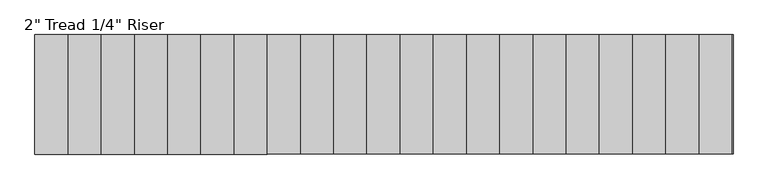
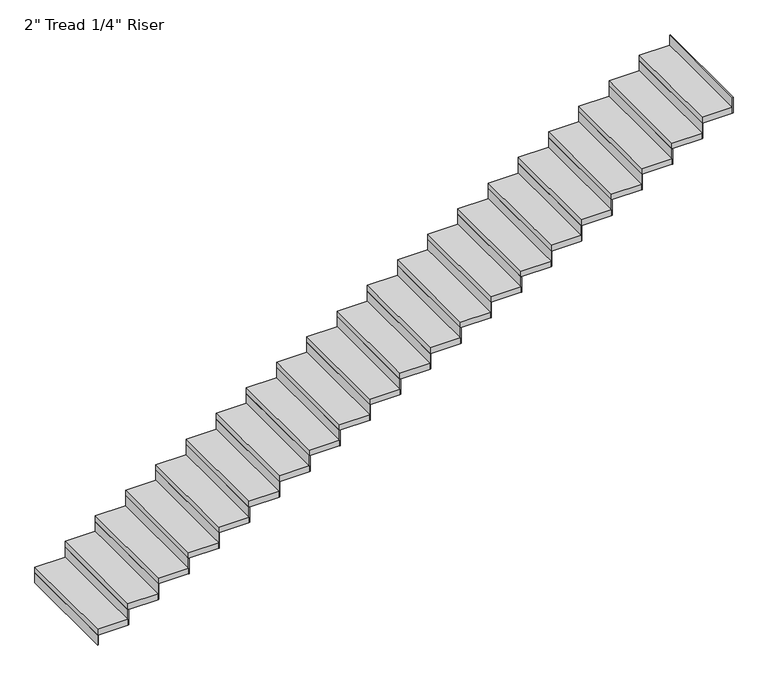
"""IFC4 building model written with IfcOpenShell, lengths in millimetres: stair flight geometry."""

from ifc_helpers import new_model, si_unit, frame, origin, origin_with_axes, place, context, project, spatial, polyline, outline, extrude, source, transform, mapped, element, save


def stair_flight_5fd97676(model_context):
    return source(origin(), model_context, "Body", "SweptSolid", [
        extrude(outline(polyline([(10185.2072927, -68793.8034511), (10178.8572927, -68793.8034511), (10178.8572927, -67879.4034511), (10185.2072927, -67879.4034511), (10185.2072927, -68793.8034511)])), origin_with_axes(), (0.0, 0.0, 1.0), 87.7454545),
        extrude(outline(polyline([(10432.8572927, -67879.4034511), (10432.8572927, -68793.8034511), (10178.8572927, -68793.8034511), (10178.8572927, -67879.4034511), (10432.8572927, -67879.4034511)])), frame((0.0, 0.0, 87.7454545), z_axis=(0.0, 0.0, 1.0), x_axis=(1.0, 0.0, 0.0)), (0.0, 0.0, 1.0), 50.8),
        extrude(outline(polyline([(10439.2072927, -68793.8034511), (10432.8572927, -68793.8034511), (10432.8572927, -67879.4034511), (10439.2072927, -67879.4034511), (10439.2072927, -68793.8034511)])), frame((0.0, 0.0, 87.7454545), z_axis=(0.0, 0.0, 1.0), x_axis=(1.0, 0.0, 0.0)), (0.0, 0.0, 1.0), 138.5454545),
        extrude(outline(polyline([(10686.8572927, -67879.4034511), (10686.8572927, -68793.8034511), (10432.8572927, -68793.8034511), (10432.8572927, -67879.4034511), (10686.8572927, -67879.4034511)])), frame((0.0, 0.0, 226.2909091), z_axis=(0.0, 0.0, 1.0), x_axis=(1.0, 0.0, 0.0)), (0.0, 0.0, 1.0), 50.8),
        extrude(outline(polyline([(10693.2072927, -68793.8034511), (10686.8572927, -68793.8034511), (10686.8572927, -67879.4034511), (10693.2072927, -67879.4034511), (10693.2072927, -68793.8034511)])), frame((0.0, 0.0, 226.2909091), z_axis=(0.0, 0.0, 1.0), x_axis=(1.0, 0.0, 0.0)), (0.0, 0.0, 1.0), 138.5454545),
        extrude(outline(polyline([(10940.8572927, -67879.4034511), (10940.8572927, -68793.8034511), (10686.8572927, -68793.8034511), (10686.8572927, -67879.4034511), (10940.8572927, -67879.4034511)])), frame((0.0, 0.0, 364.8363636), z_axis=(0.0, 0.0, 1.0), x_axis=(1.0, 0.0, 0.0)), (0.0, 0.0, 1.0), 50.8),
        extrude(outline(polyline([(10947.2072927, -68793.8034511), (10940.8572927, -68793.8034511), (10940.8572927, -67879.4034511), (10947.2072927, -67879.4034511), (10947.2072927, -68793.8034511)])), frame((0.0, 0.0, 364.8363636), z_axis=(0.0, 0.0, 1.0), x_axis=(1.0, 0.0, 0.0)), (0.0, 0.0, 1.0), 138.5454545),
        extrude(outline(polyline([(11194.8572927, -67879.4034511), (11194.8572927, -68793.8034511), (10940.8572927, -68793.8034511), (10940.8572927, -67879.4034511), (11194.8572927, -67879.4034511)])), frame((0.0, 0.0, 503.3818182), z_axis=(0.0, 0.0, 1.0), x_axis=(1.0, 0.0, 0.0)), (0.0, 0.0, 1.0), 50.8),
        extrude(outline(polyline([(11201.2072927, -68793.8034511), (11194.8572927, -68793.8034511), (11194.8572927, -67879.4034511), (11201.2072927, -67879.4034511), (11201.2072927, -68793.8034511)])), frame((0.0, 0.0, 503.3818182), z_axis=(0.0, 0.0, 1.0), x_axis=(1.0, 0.0, 0.0)), (0.0, 0.0, 1.0), 138.5454545),
        extrude(outline(polyline([(11448.8572927, -67879.4034511), (11448.8572927, -68793.8034511), (11194.8572927, -68793.8034511), (11194.8572927, -67879.4034511), (11448.8572927, -67879.4034511)])), frame((0.0, 0.0, 641.9272727), z_axis=(0.0, 0.0, 1.0), x_axis=(1.0, 0.0, 0.0)), (0.0, 0.0, 1.0), 50.8),
        extrude(outline(polyline([(11455.2072927, -68793.8034511), (11448.8572927, -68793.8034511), (11448.8572927, -67879.4034511), (11455.2072927, -67879.4034511), (11455.2072927, -68793.8034511)])), frame((0.0, 0.0, 641.9272727), z_axis=(0.0, 0.0, 1.0), x_axis=(1.0, 0.0, 0.0)), (0.0, 0.0, 1.0), 138.5454545),
        extrude(outline(polyline([(11702.8572927, -67879.4034511), (11702.8572927, -68793.8034511), (11448.8572927, -68793.8034511), (11448.8572927, -67879.4034511), (11702.8572927, -67879.4034511)])), frame((0.0, 0.0, 780.4727273), z_axis=(0.0, 0.0, 1.0), x_axis=(1.0, 0.0, 0.0)), (0.0, 0.0, 1.0), 50.8),
        extrude(outline(polyline([(11709.2072927, -68793.8034511), (11702.8572927, -68793.8034511), (11702.8572927, -67879.4034511), (11709.2072927, -67879.4034511), (11709.2072927, -68793.8034511)])), frame((0.0, 0.0, 780.4727273), z_axis=(0.0, 0.0, 1.0), x_axis=(1.0, 0.0, 0.0)), (0.0, 0.0, 1.0), 138.5454545),
        extrude(outline(polyline([(11956.8572927, -67879.4034511), (11956.8572927, -68793.8034511), (11702.8572927, -68793.8034511), (11702.8572927, -67879.4034511), (11956.8572927, -67879.4034511)])), frame((0.0, 0.0, 919.0181818), z_axis=(0.0, 0.0, 1.0), x_axis=(1.0, 0.0, 0.0)), (0.0, 0.0, 1.0), 50.8),
        extrude(outline(polyline([(11963.2072927, -68793.8034511), (11956.8572927, -68793.8034511), (11956.8572927, -67879.4034511), (11963.2072927, -67879.4034511), (11963.2072927, -68793.8034511)])), frame((0.0, 0.0, 919.0181818), z_axis=(0.0, 0.0, 1.0), x_axis=(1.0, 0.0, 0.0)), (0.0, 0.0, 1.0), 138.5454545),
        extrude(outline(polyline([(12210.8572927, -67879.4034511), (12210.8572927, -68793.8034511), (11956.8572927, -68793.8034511), (11956.8572927, -67879.4034511), (12210.8572927, -67879.4034511)])), frame((0.0, 0.0, 1057.5636364), z_axis=(0.0, 0.0, 1.0), x_axis=(1.0, 0.0, 0.0)), (0.0, 0.0, 1.0), 50.8),
        extrude(outline(polyline([(12217.2072927, -68793.8034511), (12210.8572927, -68793.8034511), (12210.8572927, -67879.4034511), (12217.2072927, -67879.4034511), (12217.2072927, -68793.8034511)])), frame((0.0, 0.0, 1057.5636364), z_axis=(0.0, 0.0, 1.0), x_axis=(1.0, 0.0, 0.0)), (0.0, 0.0, 1.0), 138.5454545),
        extrude(outline(polyline([(12464.8572927, -67879.4034511), (12464.8572927, -68793.8034511), (12210.8572927, -68793.8034511), (12210.8572927, -67879.4034511), (12464.8572927, -67879.4034511)])), frame((0.0, 0.0, 1196.1090909), z_axis=(0.0, 0.0, 1.0), x_axis=(1.0, 0.0, 0.0)), (0.0, 0.0, 1.0), 50.8),
        extrude(outline(polyline([(12471.2072927, -68793.8034511), (12464.8572927, -68793.8034511), (12464.8572927, -67879.4034511), (12471.2072927, -67879.4034511), (12471.2072927, -68793.8034511)])), frame((0.0, 0.0, 1196.1090909), z_axis=(0.0, 0.0, 1.0), x_axis=(1.0, 0.0, 0.0)), (0.0, 0.0, 1.0), 138.5454545),
        extrude(outline(polyline([(12718.8572927, -67879.4034511), (12718.8572927, -68793.8034511), (12464.8572927, -68793.8034511), (12464.8572927, -67879.4034511), (12718.8572927, -67879.4034511)])), frame((0.0, 0.0, 1334.6545455), z_axis=(0.0, 0.0, 1.0), x_axis=(1.0, 0.0, 0.0)), (0.0, 0.0, 1.0), 50.8),
        extrude(outline(polyline([(12725.2072927, -68793.8034511), (12718.8572927, -68793.8034511), (12718.8572927, -67879.4034511), (12725.2072927, -67879.4034511), (12725.2072927, -68793.8034511)])), frame((0.0, 0.0, 1334.6545455), z_axis=(0.0, 0.0, 1.0), x_axis=(1.0, 0.0, 0.0)), (0.0, 0.0, 1.0), 138.5454545),
        extrude(outline(polyline([(12972.8572927, -67879.4034511), (12972.8572927, -68793.8034511), (12718.8572927, -68793.8034511), (12718.8572927, -67879.4034511), (12972.8572927, -67879.4034511)])), frame((0.0, 0.0, 1473.2), z_axis=(0.0, 0.0, 1.0), x_axis=(1.0, 0.0, 0.0)), (0.0, 0.0, 1.0), 50.8),
        extrude(outline(polyline([(12979.2072927, -68793.8034511), (12972.8572927, -68793.8034511), (12972.8572927, -67879.4034511), (12979.2072927, -67879.4034511), (12979.2072927, -68793.8034511)])), frame((0.0, 0.0, 1473.2), z_axis=(0.0, 0.0, 1.0), x_axis=(1.0, 0.0, 0.0)), (0.0, 0.0, 1.0), 138.5454545),
        extrude(outline(polyline([(13226.8572927, -67879.4034511), (13226.8572927, -68793.8034511), (12972.8572927, -68793.8034511), (12972.8572927, -67879.4034511), (13226.8572927, -67879.4034511)])), frame((0.0, 0.0, 1611.7454545), z_axis=(0.0, 0.0, 1.0), x_axis=(1.0, 0.0, 0.0)), (0.0, 0.0, 1.0), 50.8),
        extrude(outline(polyline([(13233.2072927, -68793.8034511), (13226.8572927, -68793.8034511), (13226.8572927, -67879.4034511), (13233.2072927, -67879.4034511), (13233.2072927, -68793.8034511)])), frame((0.0, 0.0, 1611.7454545), z_axis=(0.0, 0.0, 1.0), x_axis=(1.0, 0.0, 0.0)), (0.0, 0.0, 1.0), 138.5454545),
        extrude(outline(polyline([(13480.8572927, -67879.4034511), (13480.8572927, -68793.8034511), (13226.8572927, -68793.8034511), (13226.8572927, -67879.4034511), (13480.8572927, -67879.4034511)])), frame((0.0, 0.0, 1750.2909091), z_axis=(0.0, 0.0, 1.0), x_axis=(1.0, 0.0, 0.0)), (0.0, 0.0, 1.0), 50.8),
        extrude(outline(polyline([(13487.2072927, -68793.8034511), (13480.8572927, -68793.8034511), (13480.8572927, -67879.4034511), (13487.2072927, -67879.4034511), (13487.2072927, -68793.8034511)])), frame((0.0, 0.0, 1750.2909091), z_axis=(0.0, 0.0, 1.0), x_axis=(1.0, 0.0, 0.0)), (0.0, 0.0, 1.0), 138.5454545),
        extrude(outline(polyline([(13734.8572927, -67879.4034511), (13734.8572927, -68793.8034511), (13480.8572927, -68793.8034511), (13480.8572927, -67879.4034511), (13734.8572927, -67879.4034511)])), frame((0.0, 0.0, 1888.8363636), z_axis=(0.0, 0.0, 1.0), x_axis=(1.0, 0.0, 0.0)), (0.0, 0.0, 1.0), 50.8),
        extrude(outline(polyline([(13741.2072927, -68793.8034511), (13734.8572927, -68793.8034511), (13734.8572927, -67879.4034511), (13741.2072927, -67879.4034511), (13741.2072927, -68793.8034511)])), frame((0.0, 0.0, 1888.8363636), z_axis=(0.0, 0.0, 1.0), x_axis=(1.0, 0.0, 0.0)), (0.0, 0.0, 1.0), 138.5454545),
        extrude(outline(polyline([(13988.8572927, -67879.4034511), (13988.8572927, -68793.8034511), (13734.8572927, -68793.8034511), (13734.8572927, -67879.4034511), (13988.8572927, -67879.4034511)])), frame((0.0, 0.0, 2027.3818182), z_axis=(0.0, 0.0, 1.0), x_axis=(1.0, 0.0, 0.0)), (0.0, 0.0, 1.0), 50.8),
        extrude(outline(polyline([(13995.2072927, -68793.8034511), (13988.8572927, -68793.8034511), (13988.8572927, -67879.4034511), (13995.2072927, -67879.4034511), (13995.2072927, -68793.8034511)])), frame((0.0, 0.0, 2027.3818182), z_axis=(0.0, 0.0, 1.0), x_axis=(1.0, 0.0, 0.0)), (0.0, 0.0, 1.0), 138.5454545),
        extrude(outline(polyline([(14242.8572927, -67879.4034511), (14242.8572927, -68793.8034511), (13988.8572927, -68793.8034511), (13988.8572927, -67879.4034511), (14242.8572927, -67879.4034511)])), frame((0.0, 0.0, 2165.9272727), z_axis=(0.0, 0.0, 1.0), x_axis=(1.0, 0.0, 0.0)), (0.0, 0.0, 1.0), 50.8),
        extrude(outline(polyline([(14249.2072927, -68793.8034511), (14242.8572927, -68793.8034511), (14242.8572927, -67879.4034511), (14249.2072927, -67879.4034511), (14249.2072927, -68793.8034511)])), frame((0.0, 0.0, 2165.9272727), z_axis=(0.0, 0.0, 1.0), x_axis=(1.0, 0.0, 0.0)), (0.0, 0.0, 1.0), 138.5454545),
        extrude(outline(polyline([(14496.8572927, -67879.4034511), (14496.8572927, -68793.8034511), (14242.8572927, -68793.8034511), (14242.8572927, -67879.4034511), (14496.8572927, -67879.4034511)])), frame((0.0, 0.0, 2304.4727273), z_axis=(0.0, 0.0, 1.0), x_axis=(1.0, 0.0, 0.0)), (0.0, 0.0, 1.0), 50.8),
        extrude(outline(polyline([(14503.2072927, -68793.8034511), (14496.8572927, -68793.8034511), (14496.8572927, -67879.4034511), (14503.2072927, -67879.4034511), (14503.2072927, -68793.8034511)])), frame((0.0, 0.0, 2304.4727273), z_axis=(0.0, 0.0, 1.0), x_axis=(1.0, 0.0, 0.0)), (0.0, 0.0, 1.0), 138.5454545),
        extrude(outline(polyline([(14750.8572927, -67879.4034511), (14750.8572927, -68793.8034511), (14496.8572927, -68793.8034511), (14496.8572927, -67879.4034511), (14750.8572927, -67879.4034511)])), frame((0.0, 0.0, 2443.0181818), z_axis=(0.0, 0.0, 1.0), x_axis=(1.0, 0.0, 0.0)), (0.0, 0.0, 1.0), 50.8),
        extrude(outline(polyline([(14757.2072927, -68793.8034511), (14750.8572927, -68793.8034511), (14750.8572927, -67879.4034511), (14757.2072927, -67879.4034511), (14757.2072927, -68793.8034511)])), frame((0.0, 0.0, 2443.0181818), z_axis=(0.0, 0.0, 1.0), x_axis=(1.0, 0.0, 0.0)), (0.0, 0.0, 1.0), 138.5454545),
        extrude(outline(polyline([(15004.8572927, -67879.4034511), (15004.8572927, -68793.8034511), (14750.8572927, -68793.8034511), (14750.8572927, -67879.4034511), (15004.8572927, -67879.4034511)])), frame((0.0, 0.0, 2581.5636364), z_axis=(0.0, 0.0, 1.0), x_axis=(1.0, 0.0, 0.0)), (0.0, 0.0, 1.0), 50.8),
        extrude(outline(polyline([(15011.2072927, -68793.8034511), (15004.8572927, -68793.8034511), (15004.8572927, -67879.4034511), (15011.2072927, -67879.4034511), (15011.2072927, -68793.8034511)])), frame((0.0, 0.0, 2581.5636364), z_axis=(0.0, 0.0, 1.0), x_axis=(1.0, 0.0, 0.0)), (0.0, 0.0, 1.0), 138.5454545),
        extrude(outline(polyline([(15258.8572927, -67879.4034511), (15258.8572927, -68793.8034511), (15004.8572927, -68793.8034511), (15004.8572927, -67879.4034511), (15258.8572927, -67879.4034511)])), frame((0.0, 0.0, 2720.1090909), z_axis=(0.0, 0.0, 1.0), x_axis=(1.0, 0.0, 0.0)), (0.0, 0.0, 1.0), 50.8),
        extrude(outline(polyline([(15265.2072927, -68793.8034511), (15258.8572927, -68793.8034511), (15258.8572927, -67879.4034511), (15265.2072927, -67879.4034511), (15265.2072927, -68793.8034511)])), frame((0.0, 0.0, 2720.1090909), z_axis=(0.0, 0.0, 1.0), x_axis=(1.0, 0.0, 0.0)), (0.0, 0.0, 1.0), 138.5454545),
        extrude(outline(polyline([(15519.2072927, -68793.8034511), (15512.8572927, -68793.8034511), (15512.8572927, -67879.4034511), (15519.2072927, -67879.4034511), (15519.2072927, -68793.8034511)])), frame((0.0, 0.0, 2858.6545455), z_axis=(0.0, 0.0, 1.0), x_axis=(1.0, 0.0, 0.0)), (0.0, 0.0, 1.0), 138.5454545),
        extrude(outline(polyline([(15512.8572927, -67879.4034511), (15512.8572927, -68793.8034511), (15258.8572927, -68793.8034511), (15258.8572927, -67879.4034511), (15512.8572927, -67879.4034511)])), frame((0.0, 0.0, 2858.6545455), z_axis=(0.0, 0.0, 1.0), x_axis=(1.0, 0.0, 0.0)), (0.0, 0.0, 1.0), 50.8),
    ])


if __name__ == "__main__":
    model = new_model("IFC4")
    model_context = context("Model", 3, world=origin())
    ifc_project = project(units=[si_unit("LENGTHUNIT", "METRE", prefix="MILLI")], contexts=[model_context])
    site = spatial("IfcSite", under=ifc_project)
    building = spatial("IfcBuilding", under=site)
    placement = place(None, origin())
    stair_flight_shape = stair_flight_5fd97676(model_context)
    element("IfcStairFlight", 1, ObjectType="2\" Tread 1/4\" Riser", at=placement, inside=building, context=model_context, shape_type="MappedRepresentation", body=[
        mapped(stair_flight_shape, transform((0.0, 0.0, 0.0), x_axis=(1.0, 0.0, 0.0), y_axis=(0.0, 1.0, 0.0), z_axis=(0.0, 0.0, 1.0))),
    ])
    save(model, "model.ifc")
